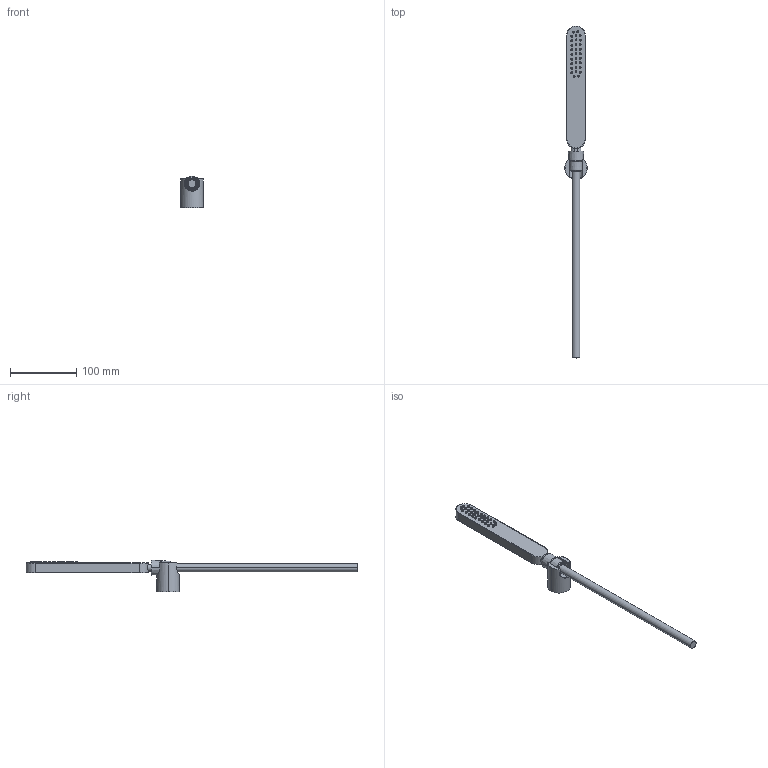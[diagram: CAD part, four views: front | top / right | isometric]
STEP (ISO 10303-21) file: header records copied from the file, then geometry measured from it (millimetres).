
FILE_DESCRIPTION((''),'2;1');
FILE_NAME('DOCCIA','2013-12-09T',('ivanv'),(''),'PRO/ENGINEER BY PARAMETRIC TECHNOLOGY CORPORATION, 2012130','PRO/ENGINEER BY PARAMETRIC TECHNOLOGY CORPORATION, 2012130','');
FILE_SCHEMA(('CONFIG_CONTROL_DESIGN'));
Length unit declared in the file: millimetre
Products named in the file (1): DOCCIA
Bounding box: 34 x 501.5 x 47.63 mm (x, y, z)
Volume: 147972.4 mm3; surface area: 37868.4 mm2
Topology: 2 solids, 2 shells, 264 faces, 536 edges, 341 vertices
Faces by surface type: cylinder 142, plane 93, torus 10, sphere 8, bspline 6, cone 5
Entity records: 7878 total; most frequent: CARTESIAN_POINT 2090, DIRECTION 1328, ORIENTED_EDGE 1070, AXIS2_PLACEMENT_3D 573, EDGE_CURVE 535, VERTEX_POINT 341, EDGE_LOOP 328, CIRCLE 316
